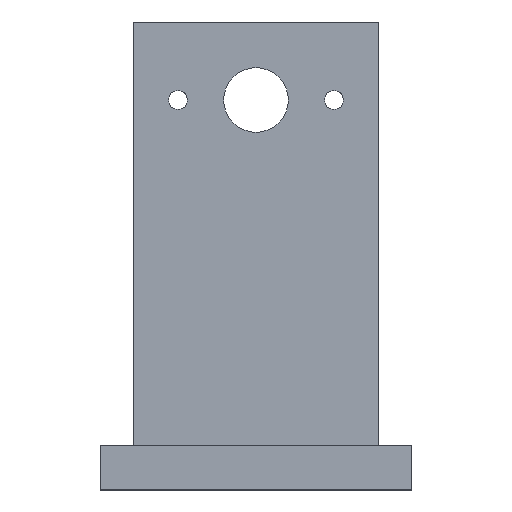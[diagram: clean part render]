
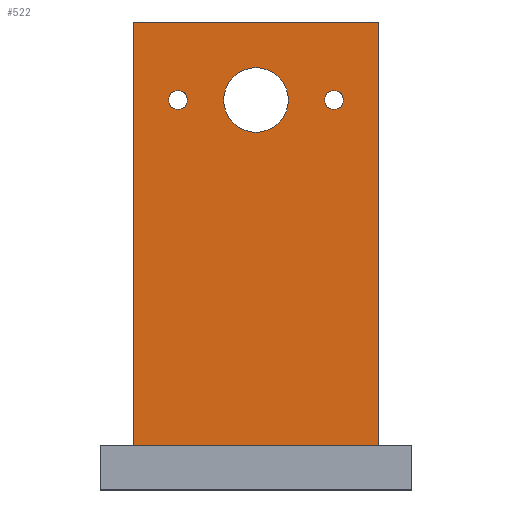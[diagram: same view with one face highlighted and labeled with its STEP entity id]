
A CAD part, top view. The second image highlights one B-rep face of the part: STEP entity #522.
In plain terms, the highlighted planar face has unit normal (0, 0, 1).
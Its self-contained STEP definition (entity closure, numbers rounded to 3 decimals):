
#7 = CARTESIAN_POINT ( 'NONE',  ( -28., 8., 8. ) ) ;
#12 = DIRECTION ( 'NONE',  ( -1., 0., 0. ) ) ;
#15 = VECTOR ( 'NONE', #324, 1000. ) ;
#22 = CARTESIAN_POINT ( 'NONE',  ( -5.8, 70., 8. ) ) ;
#27 = VERTEX_POINT ( 'NONE', #639 ) ;
#31 = ORIENTED_EDGE ( 'NONE', *, *, #487, .T. ) ;
#95 = EDGE_LOOP ( 'NONE', ( #833, #741 ) ) ;
#100 = LINE ( 'NONE', #897, #15 ) ;
#128 = FACE_BOUND ( 'NONE', #829, .T. ) ;
#136 = CARTESIAN_POINT ( 'NONE',  ( 14., 70., 8. ) ) ;
#137 = VERTEX_POINT ( 'NONE', #737 ) ;
#142 = EDGE_CURVE ( 'NONE', #523, #436, #216, .T. ) ;
#180 = CARTESIAN_POINT ( 'NONE',  ( -22., 0., 8. ) ) ;
#190 = DIRECTION ( 'NONE',  ( 0., 0., -1. ) ) ;
#192 = EDGE_CURVE ( 'NONE', #436, #884, #100, .T. ) ;
#193 = CARTESIAN_POINT ( 'NONE',  ( 5.8, 70., 8. ) ) ;
#216 = LINE ( 'NONE', #525, #793 ) ;
#220 = CARTESIAN_POINT ( 'NONE',  ( 22., 84., 8. ) ) ;
#222 = EDGE_CURVE ( 'NONE', #547, #684, #544, .T. ) ;
#250 = LINE ( 'NONE', #180, #479 ) ;
#261 = DIRECTION ( 'NONE',  ( -1., 0., 0. ) ) ;
#264 = AXIS2_PLACEMENT_3D ( 'NONE', #484, #190, #416 ) ;
#310 = EDGE_CURVE ( 'NONE', #884, #27, #250, .T. ) ;
#315 = ORIENTED_EDGE ( 'NONE', *, *, #222, .T. ) ;
#324 = DIRECTION ( 'NONE',  ( -1., 0., 0. ) ) ;
#333 = FACE_BOUND ( 'NONE', #95, .T. ) ;
#341 = CIRCLE ( 'NONE', #350, 1.7 ) ;
#342 = DIRECTION ( 'NONE',  ( -1., 0., 0. ) ) ;
#347 = ORIENTED_EDGE ( 'NONE', *, *, #477, .T. ) ;
#350 = AXIS2_PLACEMENT_3D ( 'NONE', #800, #656, #12 ) ;
#352 = DIRECTION ( 'NONE',  ( -1., 0., 0. ) ) ;
#365 = CIRCLE ( 'NONE', #264, 1.7 ) ;
#381 = VERTEX_POINT ( 'NONE', #781 ) ;
#388 = DIRECTION ( 'NONE',  ( -1., 0., 0. ) ) ;
#395 = VECTOR ( 'NONE', #511, 1000. ) ;
#400 = EDGE_CURVE ( 'NONE', #137, #504, #874, .T. ) ;
#409 = AXIS2_PLACEMENT_3D ( 'NONE', #642, #577, #342 ) ;
#410 = FACE_BOUND ( 'NONE', #859, .T. ) ;
#416 = DIRECTION ( 'NONE',  ( -1., 0., 0. ) ) ;
#436 = VERTEX_POINT ( 'NONE', #220 ) ;
#448 = CARTESIAN_POINT ( 'NONE',  ( 0., 70., 8. ) ) ;
#460 = DIRECTION ( 'NONE',  ( 0., 0., -1. ) ) ;
#477 = EDGE_CURVE ( 'NONE', #27, #523, #651, .T. ) ;
#479 = VECTOR ( 'NONE', #825, 1000. ) ;
#482 = EDGE_CURVE ( 'NONE', #534, #381, #341, .T. ) ;
#484 = CARTESIAN_POINT ( 'NONE',  ( 14., 70., 8. ) ) ;
#486 = AXIS2_PLACEMENT_3D ( 'NONE', #448, #622, #855 ) ;
#487 = EDGE_CURVE ( 'NONE', #684, #547, #524, .T. ) ;
#504 = VERTEX_POINT ( 'NONE', #923 ) ;
#511 = DIRECTION ( 'NONE',  ( 1., 0., 0. ) ) ;
#522 = ADVANCED_FACE ( 'NONE', ( #333, #128, #410, #768 ), #918, .F. ) ;
#523 = VERTEX_POINT ( 'NONE', #705 ) ;
#524 = CIRCLE ( 'NONE', #486, 5.8 ) ;
#525 = CARTESIAN_POINT ( 'NONE',  ( 22., 0., 8. ) ) ;
#534 = VERTEX_POINT ( 'NONE', #844 ) ;
#544 = CIRCLE ( 'NONE', #776, 5.8 ) ;
#547 = VERTEX_POINT ( 'NONE', #193 ) ;
#548 = CARTESIAN_POINT ( 'NONE',  ( 0., 70., 8. ) ) ;
#554 = EDGE_CURVE ( 'NONE', #381, #534, #721, .T. ) ;
#561 = ORIENTED_EDGE ( 'NONE', *, *, #310, .T. ) ;
#564 = EDGE_CURVE ( 'NONE', #504, #137, #365, .T. ) ;
#577 = DIRECTION ( 'NONE',  ( 0., 0., -1. ) ) ;
#596 = AXIS2_PLACEMENT_3D ( 'NONE', #908, #772, #261 ) ;
#597 = ORIENTED_EDGE ( 'NONE', *, *, #142, .T. ) ;
#622 = DIRECTION ( 'NONE',  ( 0., 0., -1. ) ) ;
#625 = DIRECTION ( 'NONE',  ( 0., 0., -1. ) ) ;
#639 = CARTESIAN_POINT ( 'NONE',  ( -22., 8., 8. ) ) ;
#642 = CARTESIAN_POINT ( 'NONE',  ( 0., 0., 8. ) ) ;
#651 = LINE ( 'NONE', #7, #395 ) ;
#656 = DIRECTION ( 'NONE',  ( 0., 0., -1. ) ) ;
#684 = VERTEX_POINT ( 'NONE', #22 ) ;
#700 = AXIS2_PLACEMENT_3D ( 'NONE', #136, #625, #352 ) ;
#705 = CARTESIAN_POINT ( 'NONE',  ( 22., 8., 8. ) ) ;
#721 = CIRCLE ( 'NONE', #596, 1.7 ) ;
#737 = CARTESIAN_POINT ( 'NONE',  ( 12.3, 70., 8. ) ) ;
#741 = ORIENTED_EDGE ( 'NONE', *, *, #400, .T. ) ;
#768 = FACE_OUTER_BOUND ( 'NONE', #805, .T. ) ;
#772 = DIRECTION ( 'NONE',  ( 0., 0., -1. ) ) ;
#776 = AXIS2_PLACEMENT_3D ( 'NONE', #548, #460, #388 ) ;
#781 = CARTESIAN_POINT ( 'NONE',  ( -15.7, 70., 8. ) ) ;
#785 = ORIENTED_EDGE ( 'NONE', *, *, #554, .T. ) ;
#793 = VECTOR ( 'NONE', #811, 1000. ) ;
#800 = CARTESIAN_POINT ( 'NONE',  ( -14., 70., 8. ) ) ;
#803 = CARTESIAN_POINT ( 'NONE',  ( -22., 84., 8. ) ) ;
#805 = EDGE_LOOP ( 'NONE', ( #561, #347, #597, #849 ) ) ;
#811 = DIRECTION ( 'NONE',  ( 0., 1., 0. ) ) ;
#825 = DIRECTION ( 'NONE',  ( 0., -1., 0. ) ) ;
#829 = EDGE_LOOP ( 'NONE', ( #924, #785 ) ) ;
#833 = ORIENTED_EDGE ( 'NONE', *, *, #564, .T. ) ;
#844 = CARTESIAN_POINT ( 'NONE',  ( -12.3, 70., 8. ) ) ;
#849 = ORIENTED_EDGE ( 'NONE', *, *, #192, .T. ) ;
#855 = DIRECTION ( 'NONE',  ( -1., 0., 0. ) ) ;
#859 = EDGE_LOOP ( 'NONE', ( #315, #31 ) ) ;
#874 = CIRCLE ( 'NONE', #700, 1.7 ) ;
#884 = VERTEX_POINT ( 'NONE', #803 ) ;
#897 = CARTESIAN_POINT ( 'NONE',  ( -22., 84., 8. ) ) ;
#908 = CARTESIAN_POINT ( 'NONE',  ( -14., 70., 8. ) ) ;
#918 = PLANE ( 'NONE',  #409 ) ;
#923 = CARTESIAN_POINT ( 'NONE',  ( 15.7, 70., 8. ) ) ;
#924 = ORIENTED_EDGE ( 'NONE', *, *, #482, .T. ) ;
